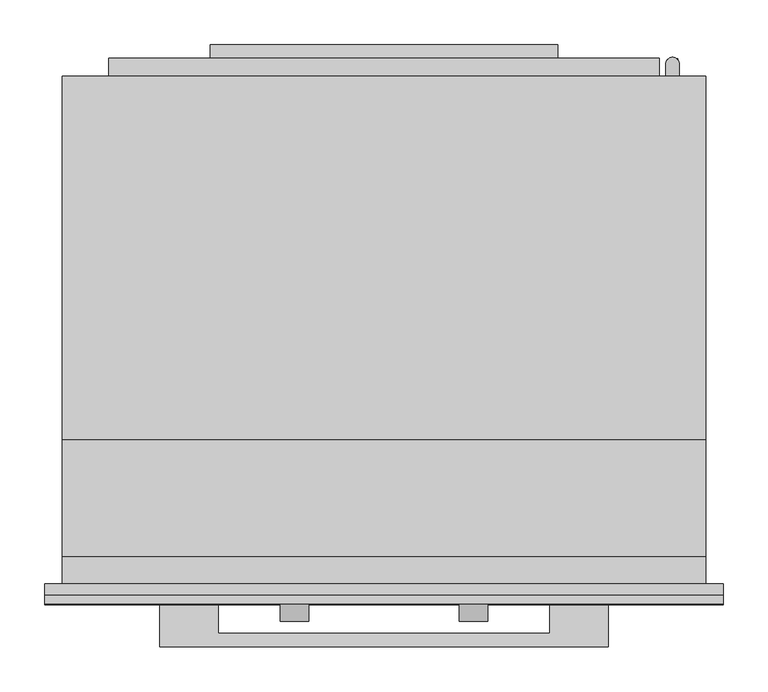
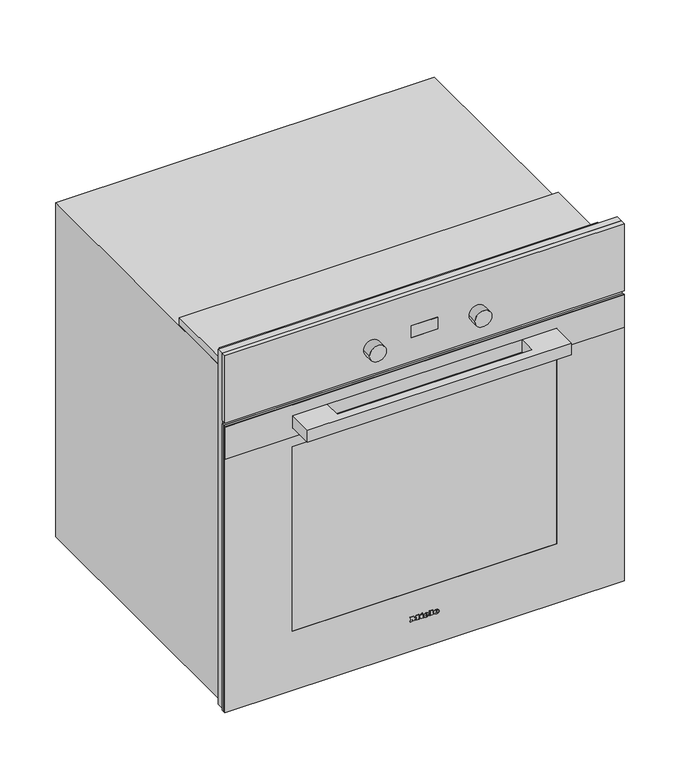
"""IFC4 building model written with IfcOpenShell, lengths in millimetres: proxy geometry, 11805330_USA_H2880BP_EDST-CLST : 22288045_USA_11805330_H2880BP_EDST-CLST."""

import ifcopenshell
import ifcopenshell.guid

model = None  # the IFC model being written
_history = None  # IfcOwnerHistory: only IFC2X3 demands one
_inside = {}  # id of a spatial element -> (the spatial element, [elements in it])
_under = {}  # id of a project, library or spatial element -> (it, [spatial elements below it])
_declared = {}  # id of a project -> (the project, [libraries it declares])
_typed = {}  # id of a type object -> (the type object, [elements of that type])
_made_of = {}  # id of a material, layer set ... -> (it, [elements and type objects made of it])


def new_model(schema):
    """Start an empty IFC model of exactly this schema.

    Asked for "IFC4X3", IfcOpenShell would pick the latest addendum, in which some entities
    have other attributes; the version numbers below select the first issue.
    IFC2X3 requires an IfcOwnerHistory on every rooted entity: one is made here for all.
    """
    global model, _history
    if schema == "IFC4X3":
        model = ifcopenshell.file(schema_version=(4, 3, 0, 0))
    else:
        model = ifcopenshell.file(schema=schema)
    _inside.clear()
    _under.clear()
    _declared.clear()
    _typed.clear()
    _made_of.clear()
    _history = None
    if model.schema == "IFC2X3":
        org = make("IfcOrganization", Name="unknown")
        user = make(
            "IfcPersonAndOrganization",
            ThePerson=make("IfcPerson", FamilyName="unknown"),
            TheOrganization=org,
        )
        app = make(
            "IfcApplication",
            ApplicationDeveloper=org,
            Version="unknown",
            ApplicationFullName="unknown",
            ApplicationIdentifier="unknown",
        )
        _history = make(
            "IfcOwnerHistory",
            OwningUser=user,
            OwningApplication=app,
            ChangeAction="ADDED",
            CreationDate=0,
        )
    return model


def make(cls, **values):
    """One entity of the class cls with the attributes given. An attribute that is None is left unset."""
    return model.create_entity(
        cls, **{name: value for name, value in values.items() if value is not None}
    )


def rooted(cls, **values):
    """An entity with a GlobalId (a new one), such as an element, a storey or a relation."""
    return make(cls, GlobalId=ifcopenshell.guid.new(), OwnerHistory=_history, **values)


def si_unit(unit_type, name, prefix=None):
    """IfcSIUnit, for example si_unit("LENGTHUNIT", "METRE", prefix="MILLI")."""
    return make("IfcSIUnit", UnitType=unit_type, Prefix=prefix, Name=name)


def assignment(units):
    """IfcUnitAssignment: the units of a project."""
    return None if units is None else make("IfcUnitAssignment", Units=units)


def point(xyz):
    """IfcCartesianPoint."""
    return None if xyz is None else make("IfcCartesianPoint", Coordinates=xyz)


def direction(xyz):
    """IfcDirection."""
    return None if xyz is None else make("IfcDirection", DirectionRatios=xyz)


def frame(location, z_axis=None, x_axis=None):
    """IfcAxis2Placement3D, a coordinate frame: its origin and axes. An axis left out is left unset."""
    return make(
        "IfcAxis2Placement3D",
        Location=point(location),
        Axis=direction(z_axis),
        RefDirection=direction(x_axis),
    )


def frame_2d(location, x_axis=None):
    """IfcAxis2Placement2D, a coordinate frame in the plane: its origin and x axis."""
    return make(
        "IfcAxis2Placement2D", Location=point(location), RefDirection=direction(x_axis)
    )


def origin():
    """The frame at (0, 0, 0) with its axes left unset."""
    return frame((0.0, 0.0, 0.0))


def place(relative_to, where):
    """IfcLocalPlacement: puts the frame where relative to a parent placement (None: the world)."""
    return make(
        "IfcLocalPlacement", PlacementRelTo=relative_to, RelativePlacement=where
    )


def context(
    kind, dimensions, precision=None, world=None, true_north=None, identifier=None
):
    """IfcGeometricRepresentationContext, for example the 3D "Model" context."""
    return make(
        "IfcGeometricRepresentationContext",
        ContextIdentifier=identifier,
        ContextType=kind,
        CoordinateSpaceDimension=dimensions,
        Precision=precision,
        WorldCoordinateSystem=world,
        TrueNorth=true_north,
    )


def project(units=None, contexts=None):
    """IfcProject with its units and contexts."""
    return rooted(
        "IfcProject",
        Name="project",
        RepresentationContexts=contexts,
        UnitsInContext=assignment(units),
    )


def spatial(cls, under=None, at=None, **own):
    """A site, building, storey or space (cls), placed at a placement, below another one or the project."""
    s = rooted(cls, ObjectPlacement=at, **own)
    if under is not None:
        _under.setdefault(under.id(), (under, []))[1].append(s)
    return s


def polyline(points):
    """IfcPolyline through the points."""
    return make("IfcPolyline", Points=[point(p) for p in points])


def circle_curve(where, radius):
    """IfcCircle in the frame where."""
    return make("IfcCircle", Position=where, Radius=radius)


def ellipse_curve(where, semi_axis1, semi_axis2):
    """IfcEllipse in the frame where."""
    return make(
        "IfcEllipse", Position=where, SemiAxis1=semi_axis1, SemiAxis2=semi_axis2
    )


def trimmed(basis, trim1, trim2, sense, master):
    """IfcTrimmedCurve: the piece of a basis curve between two trims."""
    return make(
        "IfcTrimmedCurve",
        BasisCurve=basis,
        Trim1=trim1,
        Trim2=trim2,
        SenseAgreement=sense,
        MasterRepresentation=master,
    )


def segment(curve, same_sense, transition):
    """IfcCompositeCurveSegment."""
    return make(
        "IfcCompositeCurveSegment",
        Transition=transition,
        SameSense=same_sense,
        ParentCurve=curve,
    )


def composite_curve(segments, self_intersect=None):
    """IfcCompositeCurve: segments joined end to end."""
    return make("IfcCompositeCurve", Segments=segments, SelfIntersect=self_intersect)


def outline(outer, holes=None, kind="AREA"):
    """IfcArbitraryClosedProfileDef: a profile drawn as a closed curve; with holes, ...WithVoids."""
    if holes is None:
        return make("IfcArbitraryClosedProfileDef", ProfileType=kind, OuterCurve=outer)
    return make(
        "IfcArbitraryProfileDefWithVoids",
        ProfileType=kind,
        OuterCurve=outer,
        InnerCurves=holes,
    )


def extrude(swept, where, along, depth):
    """IfcExtrudedAreaSolid: the profile swept, set in the frame where, extruded along a direction by depth."""
    return make(
        "IfcExtrudedAreaSolid",
        SweptArea=swept,
        Position=where,
        ExtrudedDirection=direction(along),
        Depth=depth,
    )


def faces_of(points, faces, orient=None, outer=None):
    """IfcFace entities. A face is a list of loops; a loop is a list of indices into points, from 0.

    orient and outer hold one flag for each loop. By default every Orientation is true, the
    first loop of a face is its IfcFaceOuterBound and the others are IfcFaceBound.
    """
    made = []
    for i, loops in enumerate(faces):
        bounds = []
        for j, loop in enumerate(loops):
            is_outer = j == 0 if outer is None else outer[i][j]
            bounds.append(
                make(
                    "IfcFaceOuterBound" if is_outer else "IfcFaceBound",
                    Bound=make("IfcPolyLoop", Polygon=[points[k] for k in loop]),
                    Orientation=True if orient is None else orient[i][j],
                )
            )
        made.append(make("IfcFace", Bounds=bounds))
    return made


def faceted_brep(points, faces, orient=None, outer=None, voids=None):
    """IfcFacetedBrep: a solid bounded by flat faces; with voids (closed shells), ...WithVoids."""
    shared = [point(p) for p in points]
    hull = make("IfcClosedShell", CfsFaces=faces_of(shared, faces, orient, outer))
    if voids is None:
        return make("IfcFacetedBrep", Outer=hull)
    return make(
        "IfcFacetedBrepWithVoids",
        Outer=hull,
        Voids=[
            make(cls, CfsFaces=faces_of(shared, fs, o, b)) for cls, fs, o, b in voids
        ],
    )


def shape(context_of_items, identifier, shape_type, items):
    """IfcShapeRepresentation: the items that make up one representation, for example the "Body"."""
    return make(
        "IfcShapeRepresentation",
        ContextOfItems=context_of_items,
        RepresentationIdentifier=identifier,
        RepresentationType=shape_type,
        Items=items,
    )


def source(mapping_origin, context_of_items, identifier, shape_type, items):
    """IfcRepresentationMap: a shape defined once, which mapped items show again and again."""
    return make(
        "IfcRepresentationMap",
        MappingOrigin=mapping_origin,
        MappedRepresentation=shape(context_of_items, identifier, shape_type, items),
    )


def transform(
    local_origin,
    x_axis=None,
    y_axis=None,
    z_axis=None,
    scale=None,
    scale2=None,
    scale3=None,
    uniform=True,
):
    """IfcCartesianTransformationOperator3D, or its non-uniform kind. x_axis, y_axis, z_axis: its Axis1, 2, 3."""
    if uniform:
        return make(
            "IfcCartesianTransformationOperator3D",
            Axis1=direction(x_axis),
            Axis2=direction(y_axis),
            LocalOrigin=point(local_origin),
            Scale=scale,
            Axis3=direction(z_axis),
        )
    return make(
        "IfcCartesianTransformationOperator3DnonUniform",
        Axis1=direction(x_axis),
        Axis2=direction(y_axis),
        LocalOrigin=point(local_origin),
        Scale=scale,
        Axis3=direction(z_axis),
        Scale2=scale2,
        Scale3=scale3,
    )


def mapped(mapping_source, mapping_target):
    """IfcMappedItem: shows the shape of a source again, moved by a transform."""
    return make(
        "IfcMappedItem", MappingSource=mapping_source, MappingTarget=mapping_target
    )


def made_of(thing, what):
    """Note that an element or type object is made of a material, layer set ...; save() writes the relation."""
    if what is not None:
        _made_of.setdefault(what.id(), (what, []))[1].append(thing)
    return thing


def element(
    cls,
    number,
    at=None,
    inside=None,
    cuts=None,
    type_object=None,
    material=None,
    context=None,
    identifier="Body",
    shape_type=None,
    held_by="IfcProductDefinitionShape",
    body=None,
    shapes=None,
    **own,
):
    """One element of the class cls, such as IfcWall. Its Tag is "e" and its number.

    at: its placement. inside: the storey or other place that contains it. cuts: it is an
    opening in that element (IfcRelVoidsElement). A single representation is given by context,
    identifier, shape_type and body (its items); several are given by shapes. held_by: the class
    of the entity that holds the representations. save() writes the other relations.
    """
    e = rooted(cls, Tag="e%d" % number, ObjectPlacement=at, **own)
    if body is not None:
        shapes = [shape(context, identifier, shape_type, body)]
    if shapes is not None:
        e.Representation = make(held_by, Representations=shapes)
    if inside is not None:
        _inside.setdefault(inside.id(), (inside, []))[1].append(e)
    if cuts is not None:
        rooted(
            "IfcRelVoidsElement", RelatingBuildingElement=cuts, RelatedOpeningElement=e
        )
    if type_object is not None:
        _typed.setdefault(type_object.id(), (type_object, []))[1].append(e)
    return made_of(e, material)


def aggregate(whole, parts):
    """IfcRelAggregates: a whole, such as a stair, and the parts it consists of."""
    return rooted("IfcRelAggregates", RelatingObject=whole, RelatedObjects=parts)


def save(model, path):
    """Write the relations noted so far, then the file.

    IfcRelAggregates (storeys below a building ...), IfcRelContainedInSpatialStructure (elements
    in a storey), IfcRelDefinesByType, IfcRelAssociatesMaterial and IfcRelDeclares: one each for
    every whole, place, type object, material and project.
    """
    for whole, parts in _under.values():
        aggregate(whole, parts)
    for where, things in _inside.values():
        rooted(
            "IfcRelContainedInSpatialStructure",
            RelatedElements=things,
            RelatingStructure=where,
        )
    for kind, things in _typed.values():
        rooted("IfcRelDefinesByType", RelatedObjects=things, RelatingType=kind)
    for what, things in _made_of.values():
        rooted("IfcRelAssociatesMaterial", RelatedObjects=things, RelatingMaterial=what)
    for by, libraries in _declared.values():
        rooted("IfcRelDeclares", RelatingContext=by, RelatedDefinitions=libraries)
    model.write(path)


def plane_surface(at):
    """IfcPlane: the flat surface through the origin of the frame at, square to its z axis."""
    return make("IfcPlane", Position=at)


def cylinder_surface(at, radius):
    """IfcCylindricalSurface: all points at the distance radius from the z axis of the frame at."""
    return make("IfcCylindricalSurface", Position=at, Radius=radius)


def revolved_surface(curve, axis_point, axis_direction):
    """IfcSurfaceOfRevolution: the curve turned about the line through axis_point along axis_direction."""
    return make(
        "IfcSurfaceOfRevolution",
        SweptCurve=make("IfcArbitraryOpenProfileDef", ProfileType="CURVE", Curve=curve),
        AxisPosition=make("IfcAxis1Placement", Location=point(axis_point), Axis=direction(axis_direction)),
    )


def extruded_surface(curve, direction_of_extrusion, depth):
    """IfcSurfaceOfLinearExtrusion: the curve pushed along a direction by depth."""
    return make(
        "IfcSurfaceOfLinearExtrusion",
        SweptCurve=make("IfcArbitraryOpenProfileDef", ProfileType="CURVE", Curve=curve),
        ExtrudedDirection=direction(direction_of_extrusion),
        Depth=depth,
    )


def advanced_brep(points, edges, surfaces, faces):
    """IfcAdvancedBrep: a solid bounded by faces that lie on surfaces and meet in shared edges.

    An edge is (start, end): straight between two places in points (the first is 0);
    or (start, end, curve); or (start, end, curve, False) where it runs against its curve.
    A face is (place in surfaces, loops), or (place, loops, False) where it looks against
    its surface's normal. A loop lists edges by number (the first is 1), with a minus sign
    where the edge is run from its end to its start. The first loop is the outer one.
    """
    corners = [point(p) for p in points]
    vertices = [make("IfcVertexPoint", VertexGeometry=c) for c in corners]
    made = []
    for start, end, *more in edges:
        made.append(
            make(
                "IfcEdgeCurve",
                EdgeStart=vertices[start],
                EdgeEnd=vertices[end],
                EdgeGeometry=more[0] if more else make("IfcPolyline", Points=[corners[start], corners[end]]),
                SameSense=more[1] if len(more) > 1 else True,
            )
        )
    hull = []
    for where, loops, *sense in faces:
        bounds = []
        for j, loop in enumerate(loops):
            ring = [make("IfcOrientedEdge", EdgeElement=made[abs(k) - 1], Orientation=k > 0) for k in loop]
            bounds.append(
                make(
                    "IfcFaceOuterBound" if j == 0 else "IfcFaceBound",
                    Bound=make("IfcEdgeLoop", EdgeList=ring),
                    Orientation=True,
                )
            )
        hull.append(make("IfcAdvancedFace", Bounds=bounds, FaceSurface=surfaces[where], SameSense=sense[0] if sense else True))
    return make("IfcAdvancedBrep", Outer=make("IfcClosedShell", CfsFaces=hull))


def specialty_equipment_479a0580(model_context):
    return source(origin(), model_context, "Body", "SolidModel", [
        advanced_brep(
        [(21.28, -23.0, 73.133), (21.28, -23.0, 74.042), (27.301, -23.0, 74.042), (16.825, -23.0, 74.042), (19.3, -23.0, 71.0), (27.148, -23.0, 73.133), (24.43, -23.0, 73.133), (22.288, -23.0, 72.125), (21.28, -23.0, 75.194), (21.28, -23.0, 76.175), (22.819, -23.0, 76.175), (22.819, -23.0, 75.194), (21.28, -22.0, 73.133), (22.288, -22.0, 72.125), (24.43, -22.0, 73.133), (27.148, -22.0, 73.133), (19.3, -22.0, 71.0), (16.825, -22.0, 74.042), (27.301, -22.0, 74.042), (21.28, -22.0, 74.042), (21.28, -22.0, 75.194), (22.819, -22.0, 75.194), (22.819, -22.0, 76.175), (21.28, -22.0, 76.175)],
        [
            (0, 1),
            (1, 2),
            (2, 3, ellipse_curve(frame((22.063, -23.0, 74.042), z_axis=(0.0, -1.0, 0.0), x_axis=(-1.0, 0.0, 0.0)), 5.238, 4.329)),
            (3, 4, circle_curve(frame((20.3080491, -23.0, 74.348), z_axis=(0.0, -1.0, 0.0), x_axis=(0.0, 0.0, -1.0)), 3.4964649)),
            (4, 5, circle_curve(frame((21.9581428, -23.0, 76.724), z_axis=(0.0, -1.0, 0.0), x_axis=(0.0, 0.0, -1.0)), 6.3110933)),
            (5, 6),
            (6, 7, circle_curve(frame((22.7279412, -23.0, 73.97), z_axis=(0.0, 1.0, 0.0), x_axis=(0.0, 0.0, -1.0)), 1.896727)),
            (7, 0, circle_curve(frame((22.288, -23.0, 73.133), z_axis=(0.0, 1.0, 0.0), x_axis=(0.0, 0.0, -1.0)), 1.008)),
            (8, 9),
            (9, 10, circle_curve(frame((22.0495, -23.0, 76.175), z_axis=(0.0, 1.0, 0.0), x_axis=(0.0, 0.0, -1.0)), 0.7695)),
            (10, 11),
            (11, 8),
            (12, 13, circle_curve(frame((22.288, -22.0, 73.133), z_axis=(0.0, -1.0, 0.0), x_axis=(0.0, 0.0, -1.0)), 1.008)),
            (13, 14, circle_curve(frame((22.7279412, -22.0, 73.97), z_axis=(0.0, -1.0, 0.0), x_axis=(0.0, 0.0, -1.0)), 1.896727)),
            (14, 15),
            (15, 16, circle_curve(frame((21.9581428, -22.0, 76.724), z_axis=(0.0, 1.0, 0.0), x_axis=(0.0, 0.0, -1.0)), 6.3110933)),
            (16, 17, circle_curve(frame((20.3080491, -22.0, 74.348), z_axis=(0.0, 1.0, 0.0), x_axis=(0.0, 0.0, -1.0)), 3.4964649)),
            (17, 18, ellipse_curve(frame((22.063, -22.0, 74.042), z_axis=(0.0, 1.0, 0.0), x_axis=(-1.0, 0.0, 0.0)), 5.238, 4.329)),
            (18, 19),
            (19, 12),
            (20, 21),
            (21, 22),
            (22, 23, circle_curve(frame((22.0495, -22.0, 76.175), z_axis=(0.0, -1.0, 0.0), x_axis=(0.0, 0.0, -1.0)), 0.7695)),
            (23, 20),
            (0, 12),
            (19, 1),
            (18, 2),
            (5, 15),
            (14, 6),
            (17, 3),
            (13, 7),
            (16, 4),
            (8, 20),
            (23, 9),
            (22, 10),
            (21, 11),
        ],
        [
            plane_surface(frame((21.28, -23.0, 74.042), z_axis=(0.0, -1.0, 0.0), x_axis=(0.0, 0.0, 1.0))),
            plane_surface(frame((21.28, -22.0, 74.042), z_axis=(0.0, 1.0, 0.0), x_axis=(0.0, 0.0, -1.0))),
            plane_surface(frame((21.28, -23.0, 73.133), z_axis=(1.0, 0.0, 0.0), x_axis=(0.0, 1.0, 0.0))),
            plane_surface(frame((21.28, -23.0, 74.042), z_axis=(0.0, 0.0, -1.0), x_axis=(0.0, 1.0, 0.0))),
            plane_surface(frame((27.148, -23.0, 73.133), z_axis=(0.0, 0.0, 1.0), x_axis=(0.0, 1.0, 0.0))),
            extruded_surface(trimmed(ellipse_curve(frame((22.063, -21.0, 74.042), z_axis=(0.0, -1.0, 0.0), x_axis=(-1.0, 0.0, 0.0)), 5.238, 4.329), [point((27.301, -21.0, 74.042))], [point((16.825, -21.0, 74.042))], True, "CARTESIAN"), (0.0, -1.0, 0.0), 1.0),
            revolved_surface(polyline([(22.7279412, -22.0, 72.073273), (22.7279412, -23.0, 72.073273)]), (22.7279412, -22.0, 73.97), (0.0, 1.0, 0.0)),
            revolved_surface(polyline([(22.288, -22.0, 72.125), (22.288, -23.0, 72.125)]), (22.288, -22.0, 73.133), (0.0, 1.0, 0.0)),
            cylinder_surface(frame((20.3080491, -22.0, 74.348), z_axis=(0.0, -1.0, 0.0), x_axis=(0.0, 0.0, -1.0)), 3.4964649),
            cylinder_surface(frame((21.9581428, -22.0, 76.724), z_axis=(0.0, -1.0, 0.0), x_axis=(0.0, 0.0, -1.0)), 6.3110933),
            plane_surface(frame((21.28, -23.0, 75.194), z_axis=(1.0, 0.0, 0.0), x_axis=(0.0, 1.0, 0.0))),
            revolved_surface(polyline([(22.0495, -22.0, 75.4055), (22.0495, -23.0, 75.4055)]), (22.0495, -22.0, 76.175), (0.0, 1.0, 0.0)),
            plane_surface(frame((22.819, -23.0, 76.175), z_axis=(-1.0, 0.0, 0.0), x_axis=(0.0, 1.0, 0.0))),
            plane_surface(frame((22.819, -23.0, 75.194), z_axis=(0.0, 0.0, 1.0), x_axis=(0.0, 1.0, 0.0))),
        ],
        [
            (0, [[1, 2, 3, 4, 5, 6, 7, 8], [9, 10, 11, 12]]),
            (1, [[13, 14, 15, 16, 17, 18, 19, 20], [21, 22, 23, 24]]),
            (2, [[-1, 25, -20, 26]]),
            (3, [[-2, -26, -19, 27]]),
            (4, [[-6, 28, -15, 29]]),
            (5, [[-3, -27, -18, 30]]),
            (6, [[-7, -29, -14, 31]]),
            (7, [[-8, -31, -13, -25]]),
            (8, [[-4, -30, -17, 32]]),
            (9, [[-5, -32, -16, -28]]),
            (10, [[-9, 33, -24, 34]]),
            (11, [[-10, -34, -23, 35]]),
            (12, [[-11, -35, -22, 36]]),
            (13, [[-12, -36, -21, -33]]),
        ],
    ),
        advanced_brep(
        [(2.497, -23.0, 73.133), (2.497, -23.0, 74.042), (8.518, -23.0, 74.042), (-1.958, -23.0, 74.042), (0.517, -23.0, 71.0), (8.365, -23.0, 73.133), (5.647, -23.0, 73.133), (3.505, -23.0, 72.125), (2.497, -23.0, 75.194), (2.497, -23.0, 76.175), (4.036, -23.0, 76.175), (4.036, -23.0, 75.194), (2.497, -22.0, 73.133), (3.505, -22.0, 72.125), (5.647, -22.0, 73.133), (8.365, -22.0, 73.133), (0.517, -22.0, 71.0), (-1.958, -22.0, 74.042), (8.518, -22.0, 74.042), (2.497, -22.0, 74.042), (2.497, -22.0, 75.194), (4.036, -22.0, 75.194), (4.036, -22.0, 76.175), (2.497, -22.0, 76.175)],
        [
            (0, 1),
            (1, 2),
            (2, 3, ellipse_curve(frame((3.28, -23.0, 74.042), z_axis=(0.0, -1.0, 0.0), x_axis=(-1.0, 0.0, 0.0)), 5.238, 4.329)),
            (3, 4, circle_curve(frame((1.5250491, -23.0, 74.348), z_axis=(0.0, -1.0, 0.0), x_axis=(0.0, 0.0, -1.0)), 3.4964649)),
            (4, 5, circle_curve(frame((3.1751428, -23.0, 76.724), z_axis=(0.0, -1.0, 0.0), x_axis=(0.0, 0.0, -1.0)), 6.3110933)),
            (5, 6),
            (6, 7, circle_curve(frame((3.9449412, -23.0, 73.97), z_axis=(0.0, 1.0, 0.0), x_axis=(0.0, 0.0, -1.0)), 1.896727)),
            (7, 0, circle_curve(frame((3.505, -23.0, 73.133), z_axis=(0.0, 1.0, 0.0), x_axis=(0.0, 0.0, -1.0)), 1.008)),
            (8, 9),
            (9, 10, circle_curve(frame((3.2665, -23.0, 76.175), z_axis=(0.0, 1.0, 0.0), x_axis=(0.0, 0.0, -1.0)), 0.7695)),
            (10, 11),
            (11, 8),
            (12, 13, circle_curve(frame((3.505, -22.0, 73.133), z_axis=(0.0, -1.0, 0.0), x_axis=(0.0, 0.0, -1.0)), 1.008)),
            (13, 14, circle_curve(frame((3.9449412, -22.0, 73.97), z_axis=(0.0, -1.0, 0.0), x_axis=(0.0, 0.0, -1.0)), 1.896727)),
            (14, 15),
            (15, 16, circle_curve(frame((3.1751428, -22.0, 76.724), z_axis=(0.0, 1.0, 0.0), x_axis=(0.0, 0.0, -1.0)), 6.3110933)),
            (16, 17, circle_curve(frame((1.5250491, -22.0, 74.348), z_axis=(0.0, 1.0, 0.0), x_axis=(0.0, 0.0, -1.0)), 3.4964649)),
            (17, 18, ellipse_curve(frame((3.28, -22.0, 74.042), z_axis=(0.0, 1.0, 0.0), x_axis=(-1.0, 0.0, 0.0)), 5.238, 4.329)),
            (18, 19),
            (19, 12),
            (20, 21),
            (21, 22),
            (22, 23, circle_curve(frame((3.2665, -22.0, 76.175), z_axis=(0.0, -1.0, 0.0), x_axis=(0.0, 0.0, -1.0)), 0.7695)),
            (23, 20),
            (0, 12),
            (19, 1),
            (18, 2),
            (5, 15),
            (14, 6),
            (17, 3),
            (13, 7),
            (16, 4),
            (8, 20),
            (23, 9),
            (22, 10),
            (21, 11),
        ],
        [
            plane_surface(frame((2.497, -23.0, 74.042), z_axis=(0.0, -1.0, 0.0), x_axis=(0.0, 0.0, 1.0))),
            plane_surface(frame((2.497, -22.0, 74.042), z_axis=(0.0, 1.0, 0.0), x_axis=(0.0, 0.0, -1.0))),
            plane_surface(frame((2.497, -23.0, 73.133), z_axis=(1.0, 0.0, 0.0), x_axis=(0.0, 1.0, 0.0))),
            plane_surface(frame((2.497, -23.0, 74.042), z_axis=(0.0, 0.0, -1.0), x_axis=(0.0, 1.0, 0.0))),
            plane_surface(frame((8.365, -23.0, 73.133), z_axis=(0.0, 0.0, 1.0), x_axis=(0.0, 1.0, 0.0))),
            extruded_surface(trimmed(ellipse_curve(frame((3.28, -21.0, 74.042), z_axis=(0.0, -1.0, 0.0), x_axis=(-1.0, 0.0, 0.0)), 5.238, 4.329), [point((8.518, -21.0, 74.042))], [point((-1.958, -21.0, 74.042))], True, "CARTESIAN"), (0.0, -1.0, 0.0), 1.0),
            revolved_surface(polyline([(3.9449412, -22.0, 72.073273), (3.9449412, -23.0, 72.073273)]), (3.9449412, -22.0, 73.97), (0.0, 1.0, 0.0)),
            revolved_surface(polyline([(3.505, -22.0, 72.125), (3.505, -23.0, 72.125)]), (3.505, -22.0, 73.133), (0.0, 1.0, 0.0)),
            cylinder_surface(frame((1.5250491, -22.0, 74.348), z_axis=(0.0, -1.0, 0.0), x_axis=(0.0, 0.0, -1.0)), 3.4964649),
            cylinder_surface(frame((3.1751428, -22.0, 76.724), z_axis=(0.0, -1.0, 0.0), x_axis=(0.0, 0.0, -1.0)), 6.3110933),
            plane_surface(frame((2.497, -23.0, 75.194), z_axis=(1.0, 0.0, 0.0), x_axis=(0.0, 1.0, 0.0))),
            revolved_surface(polyline([(3.2665, -22.0, 75.4055), (3.2665, -23.0, 75.4055)]), (3.2665, -22.0, 76.175), (0.0, 1.0, 0.0)),
            plane_surface(frame((4.036, -23.0, 76.175), z_axis=(-1.0, 0.0, 0.0), x_axis=(0.0, 1.0, 0.0))),
            plane_surface(frame((4.036, -23.0, 75.194), z_axis=(0.0, 0.0, 1.0), x_axis=(0.0, 1.0, 0.0))),
        ],
        [
            (0, [[1, 2, 3, 4, 5, 6, 7, 8], [9, 10, 11, 12]]),
            (1, [[13, 14, 15, 16, 17, 18, 19, 20], [21, 22, 23, 24]]),
            (2, [[-1, 25, -20, 26]]),
            (3, [[-2, -26, -19, 27]]),
            (4, [[-6, 28, -15, 29]]),
            (5, [[-3, -27, -18, 30]]),
            (6, [[-7, -29, -14, 31]]),
            (7, [[-8, -31, -13, -25]]),
            (8, [[-4, -30, -17, 32]]),
            (9, [[-5, -32, -16, -28]]),
            (10, [[-9, 33, -24, 34]]),
            (11, [[-10, -34, -23, 35]]),
            (12, [[-11, -35, -22, 36]]),
            (13, [[-12, -36, -21, -33]]),
        ],
    ),
        extrude(outline(polyline([(79.469, -7.34), (78.011, -6.656), (79.433, -3.605), (80.891, -4.28), (79.469, -7.34)])), frame((0.0, -23.0, 0.0), z_axis=(0.0, 1.0, 0.0), x_axis=(0.0, 0.0, 1.0)), (0.0, 0.0, 1.0), 1.0),
        extrude(outline(polyline([(77.813, -9.563), (76.202, -9.563), (76.202, -8.492), (72.512, -8.492), (72.512, -9.563), (71.0, -9.563), (71.0, -2.462), (72.512, -2.462), (72.512, -3.506), (77.813, -3.506), (77.813, -9.563)])), frame((0.0, -23.0, 0.0), z_axis=(0.0, 1.0, 0.0), x_axis=(0.0, 0.0, 1.0)), (0.0, 0.0, 1.0), 1.0),
        extrude(outline(polyline([(78.533, 9.022), (78.533, 10.102), (72.512, 10.102), (72.512, 9.022), (71.0, 9.022), (71.0, 16.321), (72.512, 16.321), (72.512, 15.214), (80.0, 15.214), (80.0, 9.022), (78.533, 9.022)])), frame((0.0, -23.0, 0.0), z_axis=(0.0, 1.0, 0.0), x_axis=(0.0, 0.0, 1.0)), (0.0, 0.0, 1.0), 1.0),
        extrude(outline(polyline([(78.533, -27.5), (78.533, -26.411), (72.512, -26.411), (72.512, -27.5), (71.0, -27.5), (71.0, -23.54), (72.512, -23.54), (72.512, -24.62), (76.3341247, -24.62), (71.0, -20.597), (76.4402223, -16.556), (72.512, -16.556), (72.512, -17.663), (71.0, -17.663), (71.0, -10.481), (72.512, -10.481), (72.512, -11.624), (78.533, -11.624), (78.533, -10.481), (80.0, -10.481), (80.0, -15.962), (76.625, -18.59), (80.0, -21.227), (80.0, -27.5), (78.533, -27.5)])), frame((0.0, -23.0, 0.0), z_axis=(0.0, 1.0, 0.0), x_axis=(0.0, 0.0, 1.0)), (0.0, 0.0, 1.0), 1.0),
        extrude(outline(polyline([(-250.0, -70.3), (-250.0, -22.0), (-185.0, -22.0), (-185.0, -55.3), (185.0, -55.3), (185.0, -22.0), (250.0, -22.0), (250.0, -70.3), (-250.0, -70.3)])), frame((0.0, 0.0, 538.0), z_axis=(0.0, 0.0, 1.0), x_axis=(1.0, 0.0, 0.0)), (0.0, 0.0, 1.0), 24.0),
        extrude(outline(polyline([(585.0, 378.5), (585.0, -378.5), (11.0, -378.5), (11.0, 378.5), (585.0, 378.5)]), holes=[polyline([(500.0, 250.5), (130.0, 250.5), (130.0, -250.5), (500.0, -250.5), (500.0, 250.5)])]), frame((0.0, -22.0, 0.0), z_axis=(0.0, 1.0, 0.0), x_axis=(0.0, 0.0, 1.0)), (0.0, 0.0, 1.0), 4.0),
        extrude(outline(polyline([(585.0, 378.5), (585.0, -378.5), (520.0, -378.5), (520.0, 378.5), (585.0, 378.5)]), holes=[polyline([(562.5, -250.5), (562.5, 250.5), (537.5, 250.5), (537.5, -250.5), (562.5, -250.5)])]), frame((0.0, -23.3, 0.0), z_axis=(0.0, 1.0, 0.0), x_axis=(0.0, 0.0, 1.0)), (0.0, 0.0, 1.0), 1.3),
        extrude(outline(polyline([(378.5, -18.0), (-378.5, -18.0), (-378.5, -13.0), (378.5, -13.0), (378.5, -18.0)])), frame((0.0, 0.0, 11.0), z_axis=(0.0, 0.0, 1.0), x_axis=(1.0, 0.0, 0.0)), (0.0, 0.0, 1.0), 574.0),
        extrude(outline(polyline([(-250.5, -18.0), (250.5, -18.0), (250.5, -22.0), (-250.5, -22.0), (-250.5, -18.0)])), frame((0.0, 0.0, 130.0), z_axis=(0.0, 0.0, 1.0), x_axis=(1.0, 0.0, 0.0)), (0.0, 0.0, 1.0), 370.0),
        extrude(outline(polyline([(-25.25, -21.0), (25.25, -21.0), (25.25, -22.0), (-25.25, -22.0), (-25.25, -21.0)])), frame((0.0, 0.0, 640.0), z_axis=(0.0, 0.0, 1.0), x_axis=(1.0, 0.0, 0.0)), (0.0, 0.0, 1.0), 23.5),
        faceted_brep([(378.5, -22.0, 727.0), (-378.5, -22.0, 727.0), (-378.5, -22.0, 592.0), (378.5, -22.0, 592.0), (25.25, -22.0, 663.5), (25.25, -22.0, 640.0), (-25.25, -22.0, 640.0), (-25.25, -22.0, 663.5), (378.5, -13.0, 727.0), (378.5, -13.0, 592.0), (-378.5, -13.0, 592.0), (-378.5, -13.0, 727.0), (25.25, -21.0, 663.5), (-25.25, -21.0, 663.5), (-25.25, -21.0, 640.0), (25.25, -21.0, 640.0)], [[[0, 1, 2, 3], [4, 5, 6, 7]], [[8, 9, 10, 11]], [[1, 0, 8, 11]], [[2, 1, 11, 10]], [[3, 2, 10, 9]], [[0, 3, 9, 8]], [[12, 13, 14, 15]], [[12, 15, 5, 4]], [[15, 14, 6, 5]], [[14, 13, 7, 6]], [[13, 12, 4, 7]]]),
        extrude(outline(composite_curve([segment(trimmed(circle_curve(frame_2d((646.0, -100.0)), 16.0), [point((646.0, -116.0))], [point((646.0, -84.0))], False, "CARTESIAN"), True, "CONTINUOUS"), segment(trimmed(circle_curve(frame_2d((646.0, -100.0)), 16.0), [point((646.0, -84.0))], [point((646.0, -116.0))], False, "CARTESIAN"), True, "CONTINUOUS")], self_intersect=False)), frame((0.0, -42.0, 0.0), z_axis=(0.0, 1.0, 0.0), x_axis=(0.0, 0.0, 1.0)), (0.0, 0.0, 1.0), 20.0),
        extrude(outline(composite_curve([segment(trimmed(circle_curve(frame_2d((646.0, 100.0)), 16.0), [point((646.0, 84.0))], [point((646.0, 116.0))], False, "CARTESIAN"), True, "CONTINUOUS"), segment(trimmed(circle_curve(frame_2d((646.0, 100.0)), 16.0), [point((646.0, 116.0))], [point((646.0, 84.0))], False, "CARTESIAN"), True, "CONTINUOUS")], self_intersect=False)), frame((0.0, -42.0, 0.0), z_axis=(0.0, 1.0, 0.0), x_axis=(0.0, 0.0, 1.0)), (0.0, 0.0, 1.0), 20.0),
        extrude(outline(polyline([(327.856335, 586.4164958), (327.856335, 576.4164958), (322.0, 576.4164958), (322.0, 577.4164958), (326.856335, 577.4164958), (326.856335, 580.9164958), (323.9061855, 580.9164958), (323.9061855, 581.9164958), (326.856335, 581.9164958), (326.856335, 585.4164958), (322.0, 585.4164958), (322.0, 586.4164958), (327.856335, 586.4164958)])), frame((0.0, 0.0, 585.0), z_axis=(0.0, 0.0, 1.0), x_axis=(1.0, 0.0, 0.0)), (0.0, 0.0, 1.0), 1.0),
        extrude(outline(polyline([(320.5, 576.4164958), (315.5, 576.4164958), (315.5, 577.4164958), (319.3952098, 577.4164958), (319.3952098, 586.4164958), (320.5, 586.4164958), (320.5, 576.4164958)])), frame((0.0, 0.0, 585.0), z_axis=(0.0, 0.0, 1.0), x_axis=(1.0, 0.0, 0.0)), (0.0, 0.0, 1.0), 1.0),
        advanced_brep(
        [(329.5, 567.0, 616.0), (314.5, 567.0, 616.0), (329.5, 580.5, 616.0), (314.5, 580.5, 616.0), (329.5, 580.5, 586.0), (314.5, 580.5, 586.0)],
        [
            (0, 1, circle_curve(frame((322.0, 567.0, 616.0), z_axis=(0.0, -1.0, 0.0), x_axis=(-1.0, 0.0, 0.0)), 7.5)),
            (1, 0, circle_curve(frame((322.0, 567.0, 616.0), z_axis=(0.0, -1.0, 0.0), x_axis=(-1.0, 0.0, 0.0)), 7.5)),
            (0, 2),
            (2, 3, ellipse_curve(frame((322.0, 580.5, 616.0), z_axis=(0.0, -0.7071067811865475, 0.7071067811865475), x_axis=(0.0, -0.7071067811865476, -0.7071067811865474)), 10.6066017, 7.5)),
            (3, 1),
            (3, 2, ellipse_curve(frame((322.0, 580.5, 616.0), z_axis=(0.0, -0.7071067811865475, 0.7071067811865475), x_axis=(0.0, -0.7071067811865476, -0.7071067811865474)), 10.6066017, 7.5)),
            (4, 5, circle_curve(frame((322.0, 580.5, 586.0), z_axis=(0.0, 0.0, -1.0), x_axis=(-1.0, 0.0, 0.0)), 7.5)),
            (5, 4, circle_curve(frame((322.0, 580.5, 586.0), z_axis=(0.0, 0.0, -1.0), x_axis=(-1.0, 0.0, 0.0)), 7.5)),
            (2, 4),
            (5, 3),
        ],
        [
            plane_surface(frame((322.0, 567.0, 616.0), z_axis=(0.0, -1.0, 0.0), x_axis=(-1.0, 0.0, 0.0))),
            cylinder_surface(frame((322.0, 567.0, 616.0), z_axis=(0.0, -1.0, 0.0), x_axis=(-1.0, 0.0, 0.0)), 7.5),
            plane_surface(frame((322.0, 580.5, 586.0), z_axis=(0.0, 0.0, -1.0), x_axis=(-1.0, 0.0, 0.0))),
            cylinder_surface(frame((322.0, 580.5, 616.0), z_axis=(0.0, 0.0, 1.0), x_axis=(-1.0, 0.0, 0.0)), 7.5),
        ],
        [
            (0, [[1, 2]]),
            (1, [[-1, 3, 4, 5]]),
            (1, [[-2, -5, 6, -3]]),
            (2, [[7, 8]]),
            (3, [[-4, 9, -8, 10]]),
            (3, [[-6, -10, -7, -9]]),
        ],
    ),
        faceted_brep([(353.5, 25.0, 593.0), (-353.5, 25.0, 593.0), (-353.5, 25.0, 15.0), (353.5, 25.0, 15.0), (-312.5, 25.0, 526.0), (312.5, 25.0, 526.0), (312.5, 25.0, 103.0), (-312.5, 25.0, 103.0), (353.5, 0.0, 593.0), (-353.5, 0.0, 593.0), (-353.5, 0.0, 15.0), (353.5, 0.0, 15.0), (359.0, 0.0, 670.0), (359.0, 0.0, 0.0), (359.0, 567.0, 0.0), (359.0, 567.0, 670.0), (-359.0, 0.0, 0.0), (-359.0, 0.0, 670.0), (-359.0, 567.0, 670.0), (-359.0, 567.0, 0.0), (-307.0, 567.0, 0.0), (-307.0, 587.0, 0.0), (307.0, 587.0, 0.0), (307.0, 567.0, 0.0), (-307.0, 587.0, 584.0), (307.0, 587.0, 584.0), (312.5, 433.0, 526.0), (-312.5, 433.0, 526.0), (-312.5, 433.0, 103.0), (312.5, 433.0, 103.0), (-307.0, 567.0, 584.0), (307.0, 567.0, 584.0)], [[[0, 1, 2, 3], [4, 5, 6, 7]], [[1, 0, 8, 9]], [[2, 1, 9, 10]], [[0, 3, 11, 8]], [[12, 13, 14, 15]], [[16, 17, 18, 19]], [[13, 16, 19, 20, 21, 22, 23, 14]], [[22, 21, 24, 25]], [[17, 12, 15, 18]], [[16, 13, 12, 17], [9, 8, 11, 10]], [[26, 27, 28, 29]], [[27, 26, 5, 4]], [[28, 27, 4, 7]], [[29, 28, 7, 6]], [[26, 29, 6, 5]], [[3, 2, 10, 11]], [[25, 24, 30, 31]], [[20, 30, 24, 21]], [[14, 23, 31, 30, 20, 19, 18, 15]], [[31, 23, 22, 25]]]),
        extrude(outline(polyline([(-194.0, 602.0), (194.0, 602.0), (194.0, 587.0), (-194.0, 587.0), (-194.0, 602.0)])), frame((0.0, 0.0, 230.0), z_axis=(0.0, 0.0, 1.0), x_axis=(1.0, 0.0, 0.0)), (0.0, 0.0, 1.0), 158.0),
        extrude(outline(polyline([(30.0, 705.0), (30.0, 686.0), (161.0, 686.0), (161.0, 670.0), (0.0, 670.0), (0.0, 705.0), (30.0, 705.0)])), frame((-359.0, 0.0, 0.0), z_axis=(1.0, 0.0, 0.0), x_axis=(0.0, 1.0, 0.0)), (0.0, 0.0, 1.0), 718.0),
        extrude(outline(polyline([(15.0, 378.5), (727.0, 378.5), (727.0, -378.5), (15.0, -378.5), (15.0, -353.5), (593.0, -353.5), (593.0, 353.5), (15.0, 353.5), (15.0, 378.5)])), frame((0.0, -13.0, 0.0), z_axis=(0.0, 1.0, 0.0), x_axis=(0.0, 0.0, 1.0)), (0.0, 0.0, 1.0), 13.0),
    ])


if __name__ == "__main__":
    model = new_model("IFC4")
    model_context = context("Model", 3, world=origin())
    ifc_project = project(units=[si_unit("LENGTHUNIT", "METRE", prefix="MILLI")], contexts=[model_context])
    site = spatial("IfcSite", under=ifc_project)
    building = spatial("IfcBuilding", under=site)
    placement = place(None, origin())
    specialty_equipment_shape = specialty_equipment_479a0580(model_context)
    element("IfcBuildingElementProxy", 1, Name="11805330_USA_H2880BP_EDST-CLST : 22288045_USA_11805330_H2880BP_EDST-CLST", ObjectType="11805330_USA_H2880BP_EDST-CLST : 22288045_USA_11805330_H2880BP_EDST-CLST", at=placement, inside=building, context=model_context, shape_type="MappedRepresentation", body=[
        mapped(specialty_equipment_shape, transform((0.0, 0.0, 0.0), x_axis=(1.0, 0.0, 0.0), y_axis=(0.0, 1.0, 0.0), z_axis=(0.0, 0.0, 1.0))),
    ])
    save(model, "model.ifc")
